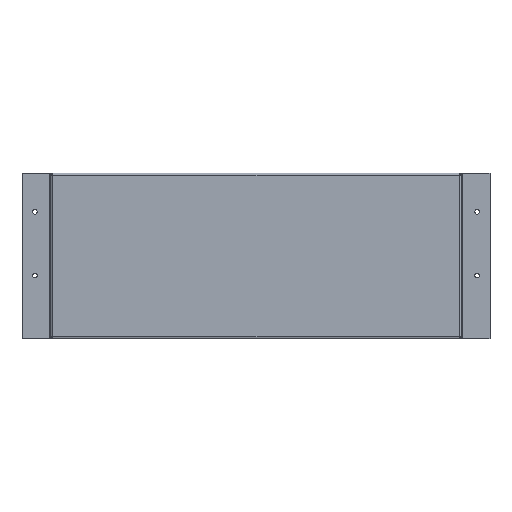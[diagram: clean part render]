
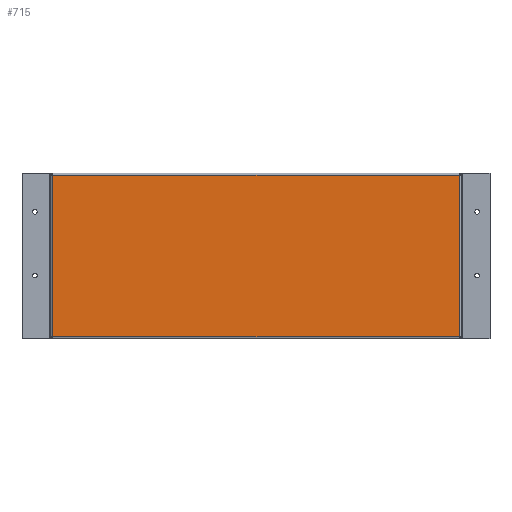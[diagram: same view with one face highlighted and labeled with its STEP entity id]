
A CAD part, top view. The second image highlights one B-rep face of the part: STEP entity #715.
In plain terms, the highlighted planar face has unit normal (0, 0, 1).
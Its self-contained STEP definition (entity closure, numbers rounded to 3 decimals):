
#237 = PLANE ( 'NONE',  #880 ) ;
#238 = CARTESIAN_POINT ( 'NONE',  ( -241.5, -97.5, 0. ) ) ;
#239 = DIRECTION ( 'NONE',  ( 0., 0., -1. ) ) ;
#240 = DIRECTION ( 'NONE',  ( -1., 0., 0. ) ) ;
#404 = CARTESIAN_POINT ( 'NONE',  ( 239.1, 95.1, 0. ) ) ;
#427 = CARTESIAN_POINT ( 'NONE',  ( -239.1, -95.1, 0. ) ) ;
#428 = CARTESIAN_POINT ( 'NONE',  ( -239.1, 95.1, 0. ) ) ;
#431 = CARTESIAN_POINT ( 'NONE',  ( 239.1, -95.1, 0. ) ) ;
#600 = EDGE_CURVE ( 'NONE', #1506, #1507, #1726, .T. ) ;
#601 = EDGE_CURVE ( 'NONE', #1483, #1507, #1729, .T. ) ;
#602 = EDGE_CURVE ( 'NONE', #1506, #1510, #1732, .T. ) ;
#603 = EDGE_CURVE ( 'NONE', #1510, #1483, #1735, .T. ) ;
#715 = ADVANCED_FACE ( 'NONE', ( #885 ), #237, .F. ) ;
#880 = AXIS2_PLACEMENT_3D ( 'NONE', #238, #239, #240 ) ;
#885 = FACE_OUTER_BOUND ( 'NONE', #1405, .T. ) ;
#970 = VECTOR ( 'NONE', #1737, 1000. ) ;
#971 = VECTOR ( 'NONE', #1734, 1000. ) ;
#972 = VECTOR ( 'NONE', #1731, 1000. ) ;
#973 = VECTOR ( 'NONE', #1728, 1000. ) ;
#1323 = ORIENTED_EDGE ( 'NONE', *, *, #603, .T. ) ;
#1324 = ORIENTED_EDGE ( 'NONE', *, *, #600, .F. ) ;
#1325 = ORIENTED_EDGE ( 'NONE', *, *, #602, .T. ) ;
#1326 = ORIENTED_EDGE ( 'NONE', *, *, #601, .T. ) ;
#1405 = EDGE_LOOP ( 'NONE', ( #1326, #1324, #1325, #1323 ) ) ;
#1483 = VERTEX_POINT ( 'NONE', #404 ) ;
#1506 = VERTEX_POINT ( 'NONE', #427 ) ;
#1507 = VERTEX_POINT ( 'NONE', #428 ) ;
#1510 = VERTEX_POINT ( 'NONE', #431 ) ;
#1726 = LINE ( 'NONE', #1727, #973 ) ;
#1727 = CARTESIAN_POINT ( 'NONE',  ( -239.1, -97.5, 0. ) ) ;
#1728 = DIRECTION ( 'NONE',  ( 0., 1., 0. ) ) ;
#1729 = LINE ( 'NONE', #1730, #972 ) ;
#1730 = CARTESIAN_POINT ( 'NONE',  ( 239.1, 95.1, 0. ) ) ;
#1731 = DIRECTION ( 'NONE',  ( -1., 0., 0. ) ) ;
#1732 = LINE ( 'NONE', #1733, #971 ) ;
#1733 = CARTESIAN_POINT ( 'NONE',  ( -239.1, -95.1, 0. ) ) ;
#1734 = DIRECTION ( 'NONE',  ( 1., 0., 0. ) ) ;
#1735 = LINE ( 'NONE', #1736, #970 ) ;
#1736 = CARTESIAN_POINT ( 'NONE',  ( 239.1, -97.5, 0. ) ) ;
#1737 = DIRECTION ( 'NONE',  ( 0., 1., 0. ) ) ;
